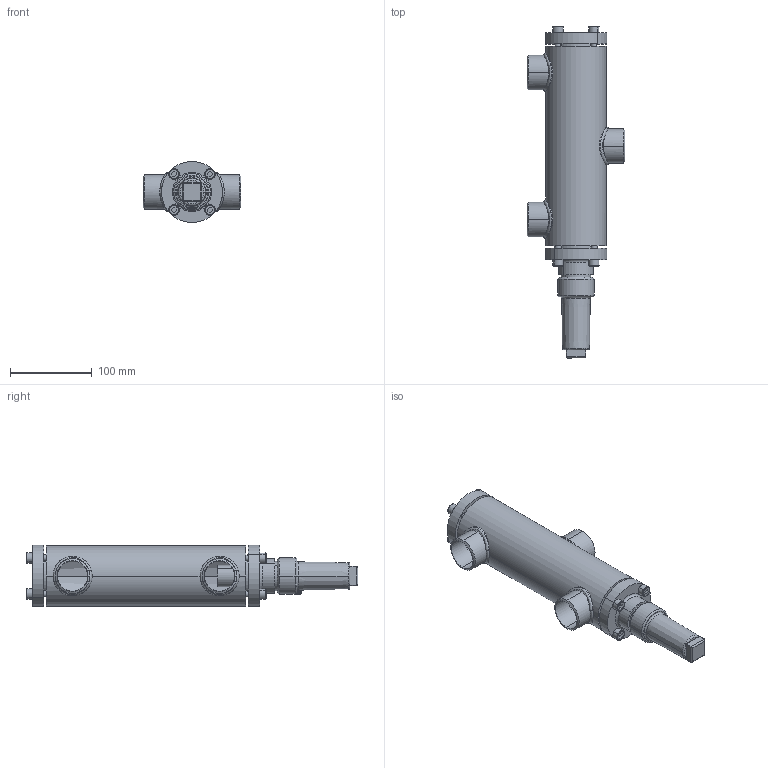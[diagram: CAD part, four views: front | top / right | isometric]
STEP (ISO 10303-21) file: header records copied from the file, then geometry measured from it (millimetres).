
FILE_DESCRIPTION (( 'STEP AP214' ), '1' );
FILE_NAME ('WVR24000D13-DN032_R1_PS40.STEP', '2010-09-08T08:20:51', ( 'Eckhard Grams' ), ( 'AWP Kälte Klima Armaturen GmbH' ), 'SwSTEP 2.0', 'SolidWorks 2002296', '' );
FILE_SCHEMA (( 'AUTOMOTIVE_DESIGN' ));
Length unit declared in the file: millimetre
Products named in the file (11): WVR24000D13-DN032_R1_PS40; Geh,kpl24000E13_DN32_R1_PS40_Standard; Gehäuse24000E13-DN32_R1_PS40_Standard; Rohrstutzen-24000E13-DN32_R1_Standard; Schw-24000E13-DN32_Standard; AVR26300E13_Deck+Schr-DN25-32_Standard; Deckel26300E13-DN25-32_Standard; WVB-R23000E13_Deck+Schr-DN25-32_Standard; Deckel23000E13-DN25-32_Standard; Zylinderschraube-DIN912_M 8x  25; Kappe 16402-13_DN10-32 (M36x2)_Standard
Assembly tree (21 placements, depth 3):
  WVR24000D13-DN032_R1_PS40
    WVB-R23000E13_Deck+Schr-DN25-32_Standard
      Zylinderschraube-DIN912_M 8x  25  x4
      Deckel23000E13-DN25-32_Standard
    Kappe 16402-13_DN10-32 (M36x2)_Standard
    AVR26300E13_Deck+Schr-DN25-32_Standard
      Zylinderschraube-DIN912_M 8x  25  x4
      Deckel26300E13-DN25-32_Standard
    Geh,kpl24000E13_DN32_R1_PS40_Standard
      Rohrstutzen-24000E13-DN32_R1_Standard  x3
      Schw-24000E13-DN32_Standard  x3
      Gehäuse24000E13-DN32_R1_PS40_Standard
Bounding box: 120 x 406.5 x 74.71 mm (x, y, z)
Volume: 943785.6 mm3; surface area: 190361.9 mm2
Topology: 18 solids, 18 shells, 391 faces, 893 edges, 563 vertices
Faces by surface type: cylinder 164, plane 129, cone 39, torus 37, bspline 22
Entity records: 21761 total; most frequent: CARTESIAN_POINT 15628, DIRECTION 1163, ORIENTED_EDGE 1074, EDGE_CURVE 537, AXIS2_PLACEMENT_3D 494, VERTEX_POINT 339, EDGE_LOOP 274, CIRCLE 254
